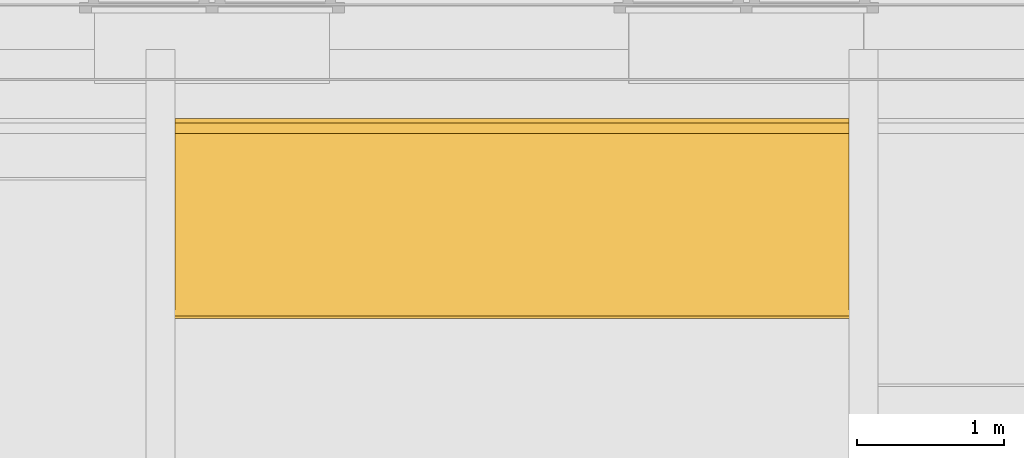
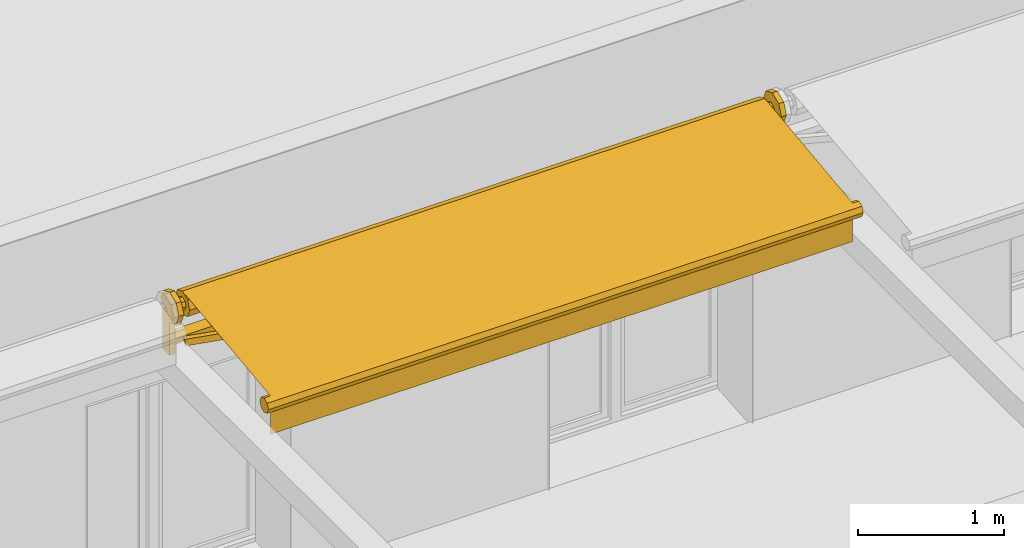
# One storey, part 24 of 36: 1 shading device.
"""IFC4 building model written with IfcOpenShell, lengths in millimetres."""

from ifc_helpers import new_model, entity, si_unit, converted_unit, derived_unit, direction, frame, origin_with_axes, place, context, subcontext, project, spatial, polygons, type_object, element, save


model = new_model("IFC4")

# Units and contexts
model_context = context("Model", 3, precision=0.01, world=origin_with_axes(), true_north=direction((0.0, 1.0)))
body_context = subcontext(model_context, "Body", "Model", "MODEL_VIEW")
ifc_project = project(units=[si_unit("LENGTHUNIT", "METRE", prefix="MILLI"), si_unit("AREAUNIT", "SQUARE_METRE"), si_unit("VOLUMEUNIT", "CUBIC_METRE"), converted_unit("PLANEANGLEUNIT", "DEGREE", entity("IfcPlaneAngleMeasure", 0.0174532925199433), si_unit("PLANEANGLEUNIT", "RADIAN"), dimensions=[0, 0, 0, 0, 0, 0, 0]), converted_unit("TIMEUNIT", "Year", entity("IfcTimeMeasure", 31557600.0), si_unit("TIMEUNIT", "SECOND"), dimensions=[0, 0, 1, 0, 0, 0, 0]), si_unit("MASSUNIT", "GRAM", prefix="KILO"), si_unit("THERMODYNAMICTEMPERATUREUNIT", "DEGREE_CELSIUS"), si_unit("LUMINOUSINTENSITYUNIT", "LUMEN"), si_unit("ENERGYUNIT", "JOULE", prefix="MEGA"), derived_unit("THERMALCONDUCTANCEUNIT", [(si_unit("POWERUNIT", "WATT"), 1), (si_unit("LENGTHUNIT", "METRE"), -1), (si_unit("THERMODYNAMICTEMPERATUREUNIT", "KELVIN"), -1)]), derived_unit("SPECIFICHEATCAPACITYUNIT", [(si_unit("ENERGYUNIT", "JOULE"), 1), (si_unit("MASSUNIT", "GRAM", prefix="KILO"), -1), (si_unit("THERMODYNAMICTEMPERATUREUNIT", "KELVIN"), -1)]), derived_unit("MASSDENSITYUNIT", [(si_unit("MASSUNIT", "GRAM", prefix="KILO"), 1), (si_unit("VOLUMEUNIT", "CUBIC_METRE"), -1)])], contexts=[model_context])

# Site, building, storey
site_placement = place(None, origin_with_axes())
site = spatial("IfcSite", under=ifc_project, at=site_placement, Name="Gelände", CompositionType="ELEMENT")
building_placement = place(site_placement, origin_with_axes())
building = spatial("IfcBuilding", under=site, at=building_placement, Name="Gebäude", CompositionType="ELEMENT")
storey_placement = place(building_placement, frame((0.0, 0.0, 8700.0), z_axis=(0.0, 0.0, 1.0), x_axis=(1.0, 0.0, 0.0)))
storey = spatial("IfcBuildingStorey", under=building, at=storey_placement, Name="Attika", CompositionType="ELEMENT", Elevation=8700.0)

# Shading device
shading_device_type = type_object("IfcShadingDeviceType", Name="Sonnensegel 27", PredefinedType="NOTDEFINED")
shading_device_placement = place(storey_placement, frame((5906.395818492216, 25686.08652644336, 2849.999999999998), z_axis=(0.0, 0.0, 1.0), x_axis=(1.0, 0.0, 0.0)))
element("IfcShadingDevice", 1, at=shading_device_placement, inside=storey, type_object=shading_device_type, Name="Möbel-018", PredefinedType="NOTDEFINED", context=body_context, shape_type="Tessellation", body=[
    polygons([(4740.79999999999, -135.3553390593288, 335.3553390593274), (50.0, -135.3553390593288, 335.3553390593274), (50.0, -150.0000000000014, 300.0), (4740.79999999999, -150.0000000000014, 300.0), (4740.79999999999, -100.0000000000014, 350.0), (50.0, -100.0000000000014, 350.0), (50.0, -64.64466094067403, 335.3553390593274), (50.0, -50.00000000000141, 300.0), (50.0, -64.64466094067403, 264.6446609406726), (50.0, -100.0000000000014, 250.0), (50.0, -135.3553390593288, 264.6446609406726), (4740.79999999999, -135.3553390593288, 264.6446609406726), (4740.79999999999, -100.0000000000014, 250.0), (4740.79999999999, -64.64466094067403, 264.6446609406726), (4740.79999999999, -50.00000000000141, 300.0), (4740.79999999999, -64.64466094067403, 335.3553390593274)], [[[1, 2, 3, 4]], [[5, 6, 2, 1]], [[3, 2, 6, 7, 8, 9, 10, 11]], [[4, 3, 11, 12]], [[4, 12, 13, 14, 15, 16, 5, 1]], [[16, 7, 6, 5]], [[15, 8, 7, 16]], [[14, 9, 8, 15]], [[13, 10, 9, 14]], [[12, 11, 10, 13]]], closed=True),
    polygons([(4690.79999999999, -170.7106781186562, 370.7106781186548), (100.0, -170.7106781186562, 370.7106781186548), (100.0, -200.0000000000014, 300.0), (4690.79999999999, -200.0000000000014, 300.0), (4690.79999999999, -100.0000000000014, 400.0), (100.0, -100.0000000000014, 400.0), (100.0, -29.28932188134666, 370.7106781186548), (100.0, 0.0, 300.0), (100.0, -29.28932188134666, 229.2893218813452), (100.0, -100.0000000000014, 199.9999999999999), (100.0, -170.7106781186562, 229.2893218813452), (4690.79999999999, -170.7106781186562, 229.2893218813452), (4690.79999999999, -100.0000000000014, 199.9999999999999), (4690.79999999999, -29.28932188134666, 229.2893218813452), (4690.79999999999, 0.0, 300.0), (4690.79999999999, -29.28932188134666, 370.7106781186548)], [[[1, 2, 3, 4]], [[5, 6, 2, 1]], [[3, 2, 6, 7, 8, 9, 10, 11]], [[4, 3, 11, 12]], [[4, 12, 13, 14, 15, 16, 5, 1]], [[16, 7, 6, 5]], [[15, 8, 7, 16]], [[14, 9, 8, 15]], [[13, 10, 9, 14]], [[12, 11, 10, 13]]], closed=True),
    polygons([(4690.79999999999, -112.0433986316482, 399.2721338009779), (4690.79999999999, -1305.775453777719, 254.4521279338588), (100.0, -1305.775453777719, 254.4521279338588), (100.0, -112.0433986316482, 399.2721338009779)], [[[1, 2, 3, 4]]], closed=False),
    polygons([(4690.79999999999, -1302.447629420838, 254.7994639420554), (4690.79999999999, -1302.447629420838, -65.20053605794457), (100.0, -1302.447629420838, -65.20053605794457), (100.0, -1302.447629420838, 254.7994639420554)], [[[1, 2, 3, 4]]], closed=False),
    polygons([(50.0, -1260.021222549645, 152.3730570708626), (50.00000000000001, -1302.447629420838, 134.7994639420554), (50.0, -1344.874036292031, 152.3730570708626), (50.0, -1362.447629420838, 194.7994639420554), (50.0, -1344.874036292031, 237.2258708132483), (49.99999999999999, -1302.447629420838, 254.7994639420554), (50.0, -1260.021222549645, 237.2258708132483), (50.0, -1242.447629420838, 194.7994639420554), (4740.799999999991, -1260.021222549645, 152.3730570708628), (4740.799999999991, -1302.447629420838, 134.7994639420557), (4740.799999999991, -1344.874036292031, 152.3730570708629), (4740.799999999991, -1362.447629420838, 194.7994639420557), (4740.799999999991, -1344.874036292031, 237.2258708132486), (4740.799999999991, -1302.447629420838, 254.7994639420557), (4740.799999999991, -1260.021222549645, 237.2258708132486), (4740.799999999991, -1242.447629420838, 194.7994639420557)], [[[1, 2, 3, 4, 5, 6, 7, 8]], [[1, 9, 10, 2]], [[2, 10, 11, 3]], [[3, 11, 12, 4]], [[4, 12, 13, 5]], [[5, 13, 14, 6]], [[6, 14, 15, 7]], [[7, 15, 16, 8]], [[8, 16, 9, 1]], [[9, 16, 15, 14, 13, 12, 11, 10]]], closed=True),
    polygons([(4750.799999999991, 0.0, -25.0), (4750.799999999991, -100.0000000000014, -25.0), (40.0, -100.0000000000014, -25.0), (40.0, 0.0, -25.0), (4750.799999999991, 0.0, 25.0), (4750.799999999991, -100.0000000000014, 25.0), (40.0, -100.0000000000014, 25.0), (40.0, 0.0, 25.0)], [[[1, 2, 3, 4]], [[1, 5, 6, 2]], [[2, 6, 7, 3]], [[3, 7, 8, 4]], [[4, 8, 5, 1]], [[8, 7, 6, 5]]], closed=True),
    polygons([(4698.544132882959, -148.4321352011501, 28.9954281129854), (2919.888279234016, -719.6559499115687, 126.3951600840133), (2919.888279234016, -728.0601848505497, 77.10653223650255), (4698.544132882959, -156.8363701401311, -20.29319973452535), (4683.055867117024, -101.5678647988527, 21.0045718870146), (2904.400013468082, -672.7916795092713, 118.4043038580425), (2904.400013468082, -681.1959144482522, 69.11567601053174), (4683.055867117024, -109.9720997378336, -28.28405596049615)], [[[1, 2, 3, 4]], [[5, 6, 2, 1]], [[2, 6, 7, 3]], [[4, 3, 7, 8]], [[1, 4, 8, 5]], [[8, 7, 6, 5]]], closed=True),
    polygons([(107.7441328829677, -101.5678647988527, 21.0045718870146), (1886.399986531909, -672.7916795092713, 118.4043038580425), (1886.399986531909, -681.1959144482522, 69.11567601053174), (107.7441328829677, -109.9720997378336, -28.28405596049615), (92.2558671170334, -148.4321352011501, 28.9954281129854), (1870.911720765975, -719.6559499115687, 126.3951600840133), (1870.911720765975, -728.0601848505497, 77.10653223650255), (92.2558671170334, -156.8363701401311, -20.29319973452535)], [[[1, 2, 3, 4]], [[5, 6, 2, 1]], [[2, 6, 7, 3]], [[4, 3, 7, 8]], [[1, 4, 8, 5]], [[8, 7, 6, 5]]], closed=True),
    polygons([(1886.399986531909, -719.6559499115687, 126.3951600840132), (107.7441328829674, -1290.879764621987, 223.7948920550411), (107.7441328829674, -1299.283999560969, 174.5062642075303), (1886.399986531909, -728.0601848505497, 77.10653223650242), (1870.911720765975, -672.7916795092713, 118.4043038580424), (92.25586711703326, -1244.01549421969, 215.8040358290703), (92.25586711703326, -1252.419729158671, 166.5154079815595), (1870.911720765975, -681.1959144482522, 69.11567601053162)], [[[1, 2, 3, 4]], [[5, 6, 2, 1]], [[2, 6, 7, 3]], [[4, 3, 7, 8]], [[1, 4, 8, 5]], [[8, 7, 6, 5]]], closed=True),
    polygons([(2919.888279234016, -672.7916795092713, 118.4043038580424), (4698.544132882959, -1244.01549421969, 215.8040358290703), (4698.544132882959, -1252.419729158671, 166.5154079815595), (2919.888279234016, -681.1959144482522, 69.11567601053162), (2904.400013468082, -719.6559499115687, 126.3951600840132), (4683.055867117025, -1290.879764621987, 223.7948920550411), (4683.055867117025, -1299.283999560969, 174.5062642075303), (2904.400013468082, -728.0601848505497, 77.10653223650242)], [[[1, 2, 3, 4]], [[5, 6, 2, 1]], [[2, 6, 7, 3]], [[4, 3, 7, 8]], [[1, 4, 8, 5]], [[8, 7, 6, 5]]], closed=True),
    polygons([(0.0, -100.0000000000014, -100.0), (40.00000000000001, -100.0000000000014, -100.0), (39.99999999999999, -100.0000000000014, 175.0), (0.0, -100.0000000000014, 175.0), (0.0, 0.0, -100.0), (40.0, 0.0, -100.0), (39.99999999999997, 0.0, 300.0000000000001), (39.99999999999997, 24.99999999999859, 300.0000000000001), (39.99999999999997, -11.61165235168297, 388.3883476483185), (39.99999999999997, -100.0000000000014, 425.0000000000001), (39.99999999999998, -188.3883476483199, 388.3883476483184), (39.99999999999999, -225.0000000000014, 300.0000000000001), (39.99999999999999, -188.3883476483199, 211.6116523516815), (0.0, -188.3883476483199, 211.6116523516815), (0.0, -225.0000000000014, 300.0000000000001), (0.0, -188.3883476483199, 388.3883476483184), (0.0, -100.0000000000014, 425.0000000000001), (0.0, -11.61165235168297, 388.3883476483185), (0.0, 24.99999999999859, 300.0000000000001), (0.0, 0.0, 300.0000000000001)], [[[1, 2, 3, 4]], [[5, 6, 2, 1]], [[2, 6, 7, 8, 9, 10, 11, 12, 13, 3]], [[4, 3, 13, 14]], [[1, 4, 14, 15, 16, 17, 18, 19, 20, 5]], [[20, 7, 6, 5]], [[19, 8, 7, 20]], [[18, 9, 8, 19]], [[17, 10, 9, 18]], [[16, 11, 10, 17]], [[15, 12, 11, 16]], [[14, 13, 12, 15]]], closed=True),
    polygons([(4750.799999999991, -100.0000000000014, -100.0), (4790.799999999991, -100.0000000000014, -100.0), (4790.799999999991, -100.0000000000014, 175.0), (4750.799999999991, -100.0000000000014, 175.0), (4750.799999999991, 0.0, -100.0), (4790.799999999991, 0.0, -100.0), (4790.799999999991, 0.0, 300.0000000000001), (4790.799999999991, 24.99999999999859, 300.0000000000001), (4790.799999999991, -11.61165235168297, 388.3883476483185), (4790.799999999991, -100.0000000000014, 425.0000000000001), (4790.799999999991, -188.3883476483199, 388.3883476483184), (4790.799999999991, -225.0000000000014, 300.0000000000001), (4790.799999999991, -188.3883476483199, 211.6116523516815), (4750.799999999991, -188.3883476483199, 211.6116523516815), (4750.799999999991, -225.0000000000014, 300.0000000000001), (4750.799999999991, -188.3883476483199, 388.3883476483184), (4750.799999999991, -100.0000000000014, 425.0000000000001), (4750.799999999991, -11.61165235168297, 388.3883476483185), (4750.799999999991, 24.99999999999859, 300.0000000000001), (4750.799999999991, 0.0, 300.0000000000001)], [[[1, 2, 3, 4]], [[5, 6, 2, 1]], [[2, 6, 7, 8, 9, 10, 11, 12, 13, 3]], [[4, 3, 13, 14]], [[1, 4, 14, 15, 16, 17, 18, 19, 20, 5]], [[20, 7, 6, 5]], [[19, 8, 7, 20]], [[18, 9, 8, 19]], [[17, 10, 9, 18]], [[16, 11, 10, 17]], [[15, 12, 11, 16]], [[14, 13, 12, 15]]], closed=True),
])

save(model, "model.ifc")
